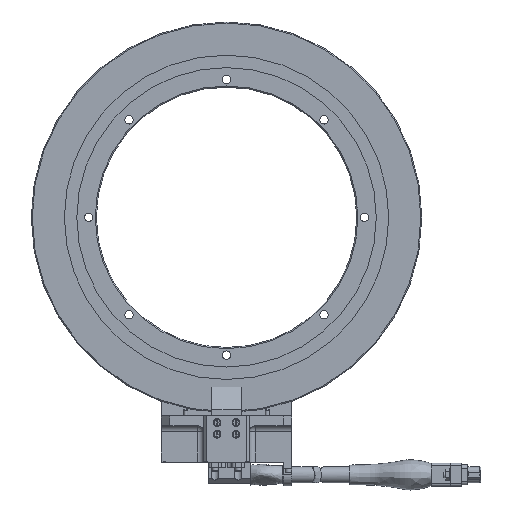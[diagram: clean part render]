
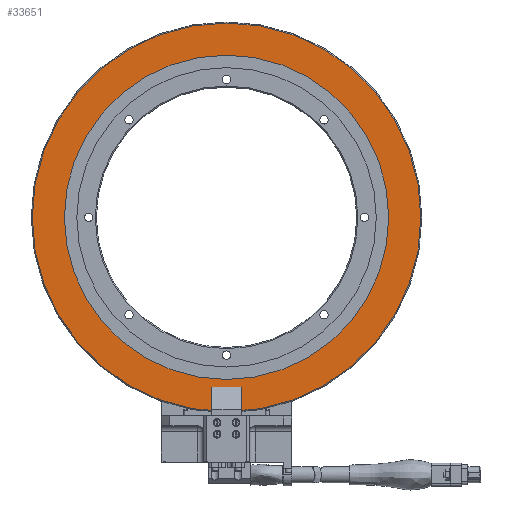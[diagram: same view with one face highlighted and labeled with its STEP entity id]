
A CAD part, front view. The second image highlights one B-rep face of the part: STEP entity #33651.
In plain terms, the highlighted planar face has unit normal (0, -1, 0).
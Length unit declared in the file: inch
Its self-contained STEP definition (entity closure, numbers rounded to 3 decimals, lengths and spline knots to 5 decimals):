
#5021 = EDGE_CURVE ( 'NONE', #72940, #72940, #87750, .T. ) ;
#12569 = CIRCLE ( 'NONE', #52987, 2.985 ) ;
#13708 = DIRECTION ( 'NONE',  ( 0., 0., 1. ) ) ;
#15742 = EDGE_LOOP ( 'NONE', ( #49148 ) ) ;
#19543 = CARTESIAN_POINT ( 'NONE',  ( 0., 0.123, 0. ) ) ;
#27325 = DIRECTION ( 'NONE',  ( 1., 0., 0. ) ) ;
#27478 = EDGE_CURVE ( 'NONE', #68506, #68506, #12569, .T. ) ;
#33651 = ADVANCED_FACE ( 'NONE', ( #91640, #92119 ), #48740, .F. ) ;
#33712 = DIRECTION ( 'NONE',  ( 1., 0., 0. ) ) ;
#34175 = DIRECTION ( 'NONE',  ( 0., 1., 0. ) ) ;
#37492 = AXIS2_PLACEMENT_3D ( 'NONE', #19543, #34175, #33712 ) ;
#41987 = CARTESIAN_POINT ( 'NONE',  ( 0., 0.123, 0. ) ) ;
#48740 = PLANE ( 'NONE',  #37492 ) ;
#48841 = AXIS2_PLACEMENT_3D ( 'NONE', #41987, #72717, #13708 ) ;
#49148 = ORIENTED_EDGE ( 'NONE', *, *, #27478, .T. ) ;
#50191 = DIRECTION ( 'NONE',  ( 0., -1., 0. ) ) ;
#52987 = AXIS2_PLACEMENT_3D ( 'NONE', #94081, #50191, #27325 ) ;
#58983 = EDGE_LOOP ( 'NONE', ( #62847 ) ) ;
#62847 = ORIENTED_EDGE ( 'NONE', *, *, #5021, .T. ) ;
#65615 = CARTESIAN_POINT ( 'NONE',  ( 0., 0.123, 2.491 ) ) ;
#68506 = VERTEX_POINT ( 'NONE', #69465 ) ;
#69465 = CARTESIAN_POINT ( 'NONE',  ( 2.985, 0.123, 0. ) ) ;
#72717 = DIRECTION ( 'NONE',  ( 0., 1., 0. ) ) ;
#72940 = VERTEX_POINT ( 'NONE', #65615 ) ;
#87750 = CIRCLE ( 'NONE', #48841, 2.491 ) ;
#91640 = FACE_OUTER_BOUND ( 'NONE', #15742, .T. ) ;
#92119 = FACE_BOUND ( 'NONE', #58983, .T. ) ;
#94081 = CARTESIAN_POINT ( 'NONE',  ( 0., 0.123, 0. ) ) ;
